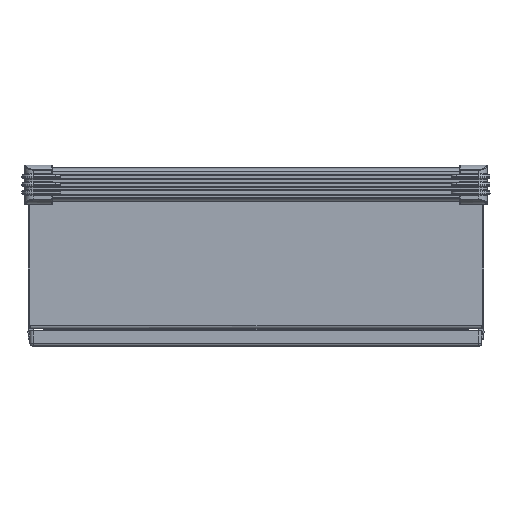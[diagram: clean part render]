
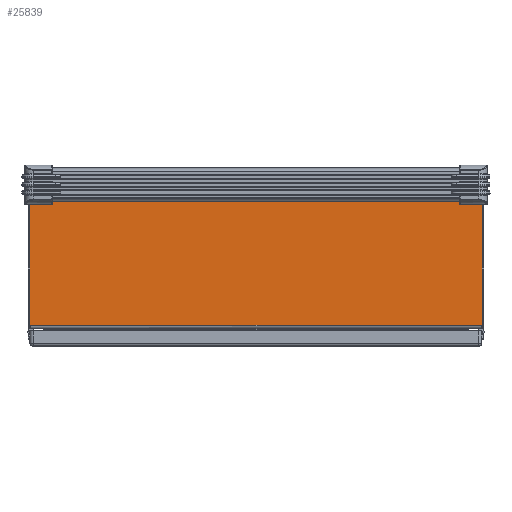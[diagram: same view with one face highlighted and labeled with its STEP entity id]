
A CAD part, left-side view. The second image highlights one B-rep face of the part: STEP entity #25839.
In plain terms, the highlighted planar face has unit normal (-1, 0, 0) as drawn and (1, 0, 0) by its records, which use the part's own axes.
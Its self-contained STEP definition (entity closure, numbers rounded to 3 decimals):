
#383 = CARTESIAN_POINT ( 'NONE',  ( 10.827, -8.267, 0.662 ) ) ;
#5596 = CARTESIAN_POINT ( 'NONE',  ( 10.827, 0., 0.662 ) ) ;
#6197 = CARTESIAN_POINT ( 'NONE',  ( 10.827, 0., 0.444 ) ) ;
#6202 = CARTESIAN_POINT ( 'NONE',  ( 10.827, 8.267, 0.444 ) ) ;
#6203 = CARTESIAN_POINT ( 'NONE',  ( 10.827, 8.267, 0.662 ) ) ;
#6298 = CARTESIAN_POINT ( 'NONE',  ( 10.827, -10.256, 0.132 ) ) ;
#6299 = CARTESIAN_POINT ( 'NONE',  ( 10.828, -10.256, 6.926 ) ) ;
#6326 = CARTESIAN_POINT ( 'NONE',  ( 10.828, 10.256, 6.926 ) ) ;
#6328 = CARTESIAN_POINT ( 'NONE',  ( 10.827, 10.256, 0.132 ) ) ;
#6889 = AXIS2_PLACEMENT_3D ( 'NONE', #30410, #30409, #30408 ) ;
#18082 = CARTESIAN_POINT ( 'NONE',  ( 10.827, -8.267, 0.444 ) ) ;
#25839 = ADVANCED_FACE ( 'NONE', ( #66432, #66437, #66439, #66441 ), #30411, .T. ) ;
#30408 = DIRECTION ( 'NONE',  ( 0., 0., -1. ) ) ;
#30409 = DIRECTION ( 'NONE',  ( 1., 0., 0. ) ) ;
#30410 = CARTESIAN_POINT ( 'NONE',  ( 10.828, -118.61, 6.926 ) ) ;
#30411 = PLANE ( 'NONE',  #6889 ) ;
#31935 = ORIENTED_EDGE ( 'NONE', *, *, #68055, .F. ) ;
#50408 = VERTEX_POINT ( 'NONE', #6328 ) ;
#50410 = VERTEX_POINT ( 'NONE', #6326 ) ;
#50436 = VERTEX_POINT ( 'NONE', #6299 ) ;
#50438 = VERTEX_POINT ( 'NONE', #6298 ) ;
#50532 = VERTEX_POINT ( 'NONE', #6202 ) ;
#50533 = VERTEX_POINT ( 'NONE', #6203 ) ;
#50540 = VERTEX_POINT ( 'NONE', #6197 ) ;
#50541 = VERTEX_POINT ( 'NONE', #5596 ) ;
#55694 = ORIENTED_EDGE ( 'NONE', *, *, #68439, .T. ) ;
#55802 = ORIENTED_EDGE ( 'NONE', *, *, #68069, .F. ) ;
#55980 = ORIENTED_EDGE ( 'NONE', *, *, #68475, .F. ) ;
#56258 = ORIENTED_EDGE ( 'NONE', *, *, #68459, .F. ) ;
#56320 = ORIENTED_EDGE ( 'NONE', *, *, #68350, .T. ) ;
#56476 = ORIENTED_EDGE ( 'NONE', *, *, #68084, .F. ) ;
#56836 = ORIENTED_EDGE ( 'NONE', *, *, #68477, .T. ) ;
#56850 = ORIENTED_EDGE ( 'NONE', *, *, #68473, .F. ) ;
#56880 = ORIENTED_EDGE ( 'NONE', *, *, #68457, .F. ) ;
#57578 = VERTEX_POINT ( 'NONE', #383 ) ;
#58170 = VERTEX_POINT ( 'NONE', #18082 ) ;
#59406 = CARTESIAN_POINT ( 'NONE',  ( 10.827, -8.267, 0.553 ) ) ;
#59407 = DIRECTION ( 'NONE',  ( 1., 0., 0. ) ) ;
#59408 = DIRECTION ( 'NONE',  ( 0., 0., -1. ) ) ;
#59426 = CARTESIAN_POINT ( 'NONE',  ( 10.827, 0., 0.553 ) ) ;
#59427 = DIRECTION ( 'NONE',  ( 1., 0., 0. ) ) ;
#59428 = DIRECTION ( 'NONE',  ( 0., 0., -1. ) ) ;
#59446 = CARTESIAN_POINT ( 'NONE',  ( 10.827, 8.267, 0.553 ) ) ;
#59447 = DIRECTION ( 'NONE',  ( 1., 0., 0. ) ) ;
#59448 = DIRECTION ( 'NONE',  ( 0., 0., -1. ) ) ;
#59894 = CARTESIAN_POINT ( 'NONE',  ( 10.828, -10.256, 6.926 ) ) ;
#59895 = DIRECTION ( 'NONE',  ( 0., 0., -1. ) ) ;
#60005 = CARTESIAN_POINT ( 'NONE',  ( 10.828, 10.256, 6.926 ) ) ;
#60006 = DIRECTION ( 'NONE',  ( 0., 0., 1. ) ) ;
#60023 = CARTESIAN_POINT ( 'NONE',  ( 10.827, 8.267, 0.553 ) ) ;
#60025 = CARTESIAN_POINT ( 'NONE',  ( 10.827, -8.267, 0.553 ) ) ;
#60028 = DIRECTION ( 'NONE',  ( 1., 0., 0. ) ) ;
#60029 = DIRECTION ( 'NONE',  ( 0., 0., -1. ) ) ;
#60030 = DIRECTION ( 'NONE',  ( 1., 0., 0. ) ) ;
#60031 = DIRECTION ( 'NONE',  ( 0., 0., -1. ) ) ;
#60036 = CARTESIAN_POINT ( 'NONE',  ( 10.827, -118.61, 0.132 ) ) ;
#60039 = CARTESIAN_POINT ( 'NONE',  ( 10.827, 0., 0.553 ) ) ;
#60045 = DIRECTION ( 'NONE',  ( 1., 0., 0. ) ) ;
#60046 = DIRECTION ( 'NONE',  ( 0., 0., -1. ) ) ;
#60047 = CARTESIAN_POINT ( 'NONE',  ( 10.828, -118.61, 6.926 ) ) ;
#60048 = DIRECTION ( 'NONE',  ( 0., 1., 0. ) ) ;
#60050 = DIRECTION ( 'NONE',  ( 0., 1., 0. ) ) ;
#60842 = CIRCLE ( 'NONE', #68511, 0.109 ) ;
#60854 = CIRCLE ( 'NONE', #68555, 0.109 ) ;
#60866 = CIRCLE ( 'NONE', #68563, 0.109 ) ;
#61063 = LINE ( 'NONE', #59894, #61064 ) ;
#61064 = VECTOR ( 'NONE', #59895, 39.37 ) ;
#61121 = LINE ( 'NONE', #60005, #61128 ) ;
#61128 = VECTOR ( 'NONE', #60006, 39.37 ) ;
#61133 = LINE ( 'NONE', #60047, #61142 ) ;
#61142 = VECTOR ( 'NONE', #60048, 39.37 ) ;
#61144 = CIRCLE ( 'NONE', #68719, 0.109 ) ;
#61146 = CIRCLE ( 'NONE', #68741, 0.109 ) ;
#61158 = LINE ( 'NONE', #60036, #61160 ) ;
#61159 = CIRCLE ( 'NONE', #68744, 0.109 ) ;
#61160 = VECTOR ( 'NONE', #60050, 39.37 ) ;
#61896 = EDGE_LOOP ( 'NONE', ( #55694, #55980, #56320, #56836 ) ) ;
#61947 = EDGE_LOOP ( 'NONE', ( #31935, #56880 ) ) ;
#62100 = EDGE_LOOP ( 'NONE', ( #55802, #56850 ) ) ;
#62360 = EDGE_LOOP ( 'NONE', ( #56476, #56258 ) ) ;
#66432 = FACE_BOUND ( 'NONE', #61947, .T. ) ;
#66437 = FACE_BOUND ( 'NONE', #62100, .T. ) ;
#66439 = FACE_BOUND ( 'NONE', #62360, .T. ) ;
#66441 = FACE_OUTER_BOUND ( 'NONE', #61896, .T. ) ;
#68055 = EDGE_CURVE ( 'NONE', #57578, #58170, #60842, .T. ) ;
#68069 = EDGE_CURVE ( 'NONE', #50541, #50540, #60854, .T. ) ;
#68084 = EDGE_CURVE ( 'NONE', #50533, #50532, #60866, .T. ) ;
#68350 = EDGE_CURVE ( 'NONE', #50436, #50438, #61063, .T. ) ;
#68439 = EDGE_CURVE ( 'NONE', #50408, #50410, #61121, .T. ) ;
#68457 = EDGE_CURVE ( 'NONE', #58170, #57578, #61144, .T. ) ;
#68459 = EDGE_CURVE ( 'NONE', #50532, #50533, #61146, .T. ) ;
#68473 = EDGE_CURVE ( 'NONE', #50540, #50541, #61159, .T. ) ;
#68475 = EDGE_CURVE ( 'NONE', #50436, #50410, #61133, .T. ) ;
#68477 = EDGE_CURVE ( 'NONE', #50438, #50408, #61158, .T. ) ;
#68511 = AXIS2_PLACEMENT_3D ( 'NONE', #59406, #59407, #59408 ) ;
#68555 = AXIS2_PLACEMENT_3D ( 'NONE', #59426, #59427, #59428 ) ;
#68563 = AXIS2_PLACEMENT_3D ( 'NONE', #59446, #59447, #59448 ) ;
#68719 = AXIS2_PLACEMENT_3D ( 'NONE', #60025, #60028, #60029 ) ;
#68741 = AXIS2_PLACEMENT_3D ( 'NONE', #60023, #60030, #60031 ) ;
#68744 = AXIS2_PLACEMENT_3D ( 'NONE', #60039, #60045, #60046 ) ;
